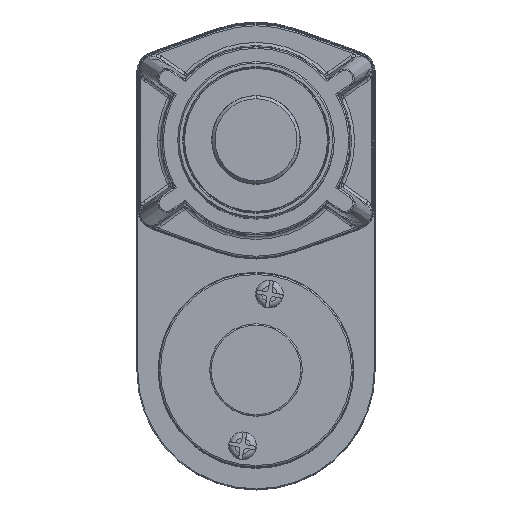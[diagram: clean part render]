
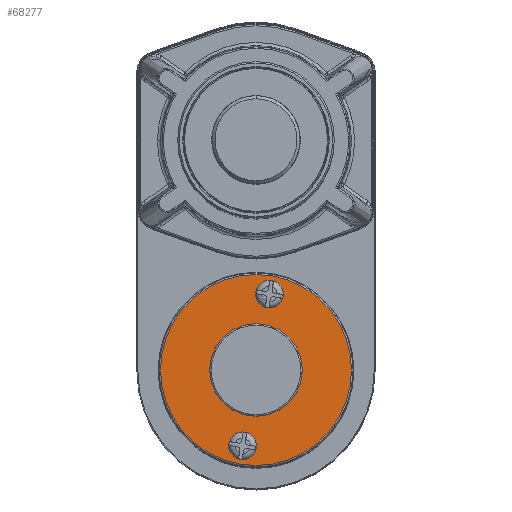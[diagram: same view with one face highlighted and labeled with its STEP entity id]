
A CAD part, top view. The second image highlights one B-rep face of the part: STEP entity #68277.
In plain terms, the highlighted planar face has unit normal (0, 0, 1).
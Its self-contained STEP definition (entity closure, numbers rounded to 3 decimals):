
#166 = ORIENTED_EDGE ( 'NONE', *, *, #59602, .F. ) ;
#939 = EDGE_LOOP ( 'NONE', ( #50888, #166 ) ) ;
#1154 = VERTEX_POINT ( 'NONE', #62194 ) ;
#2900 = EDGE_LOOP ( 'NONE', ( #66539, #80140 ) ) ;
#7581 = DIRECTION ( 'NONE',  ( -0.174, -0.985, 0. ) ) ;
#8800 = AXIS2_PLACEMENT_3D ( 'NONE', #60142, #56203, #48550 ) ;
#11168 = CARTESIAN_POINT ( 'NONE',  ( -13.407, -21.584, 284.9 ) ) ;
#14605 = VERTEX_POINT ( 'NONE', #78207 ) ;
#15618 = VERTEX_POINT ( 'NONE', #16659 ) ;
#16395 = CIRCLE ( 'NONE', #21764, 15. ) ;
#16659 = CARTESIAN_POINT ( 'NONE',  ( -21.308, -66.393, 284.9 ) ) ;
#17082 = DIRECTION ( 'NONE',  ( 0., 0., 1. ) ) ;
#20701 = DIRECTION ( 'NONE',  ( -0.174, -0.985, 0. ) ) ;
#20923 = CARTESIAN_POINT ( 'NONE',  ( -22.871, -75.256, 284.9 ) ) ;
#21764 = AXIS2_PLACEMENT_3D ( 'NONE', #37767, #44549, #31810 ) ;
#23636 = AXIS2_PLACEMENT_3D ( 'NONE', #24091, #42810, #43640 ) ;
#24091 = CARTESIAN_POINT ( 'NONE',  ( -13.407, -21.584, 284.9 ) ) ;
#25365 = DIRECTION ( 'NONE',  ( -0.174, -0.985, 0. ) ) ;
#25622 = CIRCLE ( 'NONE', #55448, 31. ) ;
#25682 = CARTESIAN_POINT ( 'NONE',  ( -17.749, -46.204, 284.9 ) ) ;
#29071 = DIRECTION ( 'NONE',  ( -0.174, -0.985, 0. ) ) ;
#29459 = FACE_BOUND ( 'NONE', #65717, .T. ) ;
#30716 = FACE_OUTER_BOUND ( 'NONE', #2900, .T. ) ;
#31810 = DIRECTION ( 'NONE',  ( -0.174, -0.985, 0. ) ) ;
#31822 = CIRCLE ( 'NONE', #23636, 4.5 ) ;
#31988 = CIRCLE ( 'NONE', #60271, 4.5 ) ;
#34280 = DIRECTION ( 'NONE',  ( 0., 0., 1. ) ) ;
#35013 = CARTESIAN_POINT ( 'NONE',  ( -17.749, -46.204, 284.9 ) ) ;
#36876 = DIRECTION ( 'NONE',  ( 0., 0., 1. ) ) ;
#37767 = CARTESIAN_POINT ( 'NONE',  ( -17.749, -46.204, 284.9 ) ) ;
#38437 = DIRECTION ( 'NONE',  ( -0.174, -0.985, 0. ) ) ;
#39308 = EDGE_CURVE ( 'NONE', #60286, #81885, #25622, .T. ) ;
#39797 = DIRECTION ( 'NONE',  ( 0., 0., 1. ) ) ;
#40037 = ORIENTED_EDGE ( 'NONE', *, *, #73663, .F. ) ;
#42679 = VERTEX_POINT ( 'NONE', #57080 ) ;
#42810 = DIRECTION ( 'NONE',  ( 0., 0., 1. ) ) ;
#43640 = DIRECTION ( 'NONE',  ( -0.174, -0.985, 0. ) ) ;
#44549 = DIRECTION ( 'NONE',  ( 0., 0., 1. ) ) ;
#45997 = ORIENTED_EDGE ( 'NONE', *, *, #53852, .F. ) ;
#46171 = CARTESIAN_POINT ( 'NONE',  ( -22.09, -70.824, 284.9 ) ) ;
#46392 = EDGE_CURVE ( 'NONE', #1154, #14605, #81721, .T. ) ;
#47347 = AXIS2_PLACEMENT_3D ( 'NONE', #35013, #74473, #29071 ) ;
#48550 = DIRECTION ( 'NONE',  ( -0.174, -0.985, 0. ) ) ;
#49805 = FACE_BOUND ( 'NONE', #939, .T. ) ;
#50530 = EDGE_CURVE ( 'NONE', #56502, #42679, #16395, .T. ) ;
#50888 = ORIENTED_EDGE ( 'NONE', *, *, #46392, .F. ) ;
#51105 = CARTESIAN_POINT ( 'NONE',  ( -12.365, -15.675, 284.9 ) ) ;
#52504 = AXIS2_PLACEMENT_3D ( 'NONE', #63604, #36876, #25365 ) ;
#53852 = EDGE_CURVE ( 'NONE', #42679, #56502, #61278, .T. ) ;
#55448 = AXIS2_PLACEMENT_3D ( 'NONE', #72448, #39797, #7581 ) ;
#56203 = DIRECTION ( 'NONE',  ( 0., 0., 1. ) ) ;
#56502 = VERTEX_POINT ( 'NONE', #71540 ) ;
#56956 = DIRECTION ( 'NONE',  ( -0.174, -0.985, 0. ) ) ;
#57080 = CARTESIAN_POINT ( 'NONE',  ( -20.353, -60.976, 284.9 ) ) ;
#58316 = ORIENTED_EDGE ( 'NONE', *, *, #70466, .F. ) ;
#59602 = EDGE_CURVE ( 'NONE', #14605, #1154, #31822, .T. ) ;
#60142 = CARTESIAN_POINT ( 'NONE',  ( -2.976, -48.809, 284.9 ) ) ;
#60271 = AXIS2_PLACEMENT_3D ( 'NONE', #46171, #34280, #20701 ) ;
#60286 = VERTEX_POINT ( 'NONE', #62128 ) ;
#61278 = CIRCLE ( 'NONE', #81571, 15. ) ;
#61736 = FACE_BOUND ( 'NONE', #73474, .T. ) ;
#62128 = CARTESIAN_POINT ( 'NONE',  ( -23.132, -76.733, 284.9 ) ) ;
#62151 = PLANE ( 'NONE',  #8800 ) ;
#62194 = CARTESIAN_POINT ( 'NONE',  ( -12.626, -17.152, 284.9 ) ) ;
#63604 = CARTESIAN_POINT ( 'NONE',  ( -22.09, -70.824, 284.9 ) ) ;
#64707 = CIRCLE ( 'NONE', #52504, 4.5 ) ;
#65717 = EDGE_LOOP ( 'NONE', ( #40037, #58316 ) ) ;
#66002 = DIRECTION ( 'NONE',  ( 0., 0., 1. ) ) ;
#66484 = ORIENTED_EDGE ( 'NONE', *, *, #50530, .F. ) ;
#66539 = ORIENTED_EDGE ( 'NONE', *, *, #39308, .T. ) ;
#66826 = AXIS2_PLACEMENT_3D ( 'NONE', #11168, #17082, #56956 ) ;
#68277 = ADVANCED_FACE ( 'NONE', ( #29459, #49805, #30716, #61736 ), #62151, .T. ) ;
#70466 = EDGE_CURVE ( 'NONE', #82062, #15618, #31988, .T. ) ;
#71540 = CARTESIAN_POINT ( 'NONE',  ( -15.144, -31.432, 284.9 ) ) ;
#72448 = CARTESIAN_POINT ( 'NONE',  ( -17.749, -46.204, 284.9 ) ) ;
#73474 = EDGE_LOOP ( 'NONE', ( #45997, #66484 ) ) ;
#73663 = EDGE_CURVE ( 'NONE', #15618, #82062, #64707, .T. ) ;
#74473 = DIRECTION ( 'NONE',  ( 0., 0., 1. ) ) ;
#76718 = EDGE_CURVE ( 'NONE', #81885, #60286, #83931, .T. ) ;
#78207 = CARTESIAN_POINT ( 'NONE',  ( -14.189, -26.016, 284.9 ) ) ;
#80140 = ORIENTED_EDGE ( 'NONE', *, *, #76718, .T. ) ;
#81571 = AXIS2_PLACEMENT_3D ( 'NONE', #25682, #66002, #38437 ) ;
#81721 = CIRCLE ( 'NONE', #66826, 4.5 ) ;
#81885 = VERTEX_POINT ( 'NONE', #51105 ) ;
#82062 = VERTEX_POINT ( 'NONE', #20923 ) ;
#83931 = CIRCLE ( 'NONE', #47347, 31. ) ;
